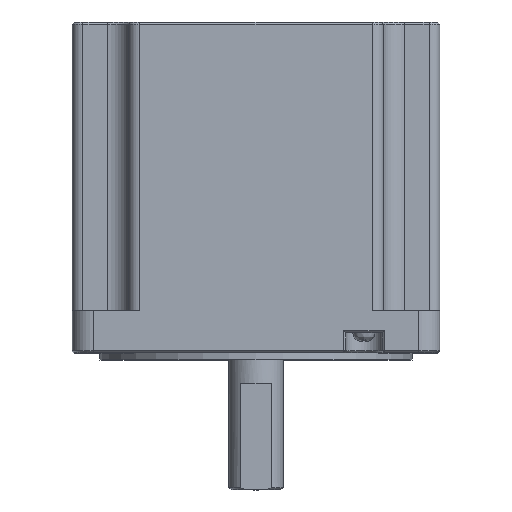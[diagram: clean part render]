
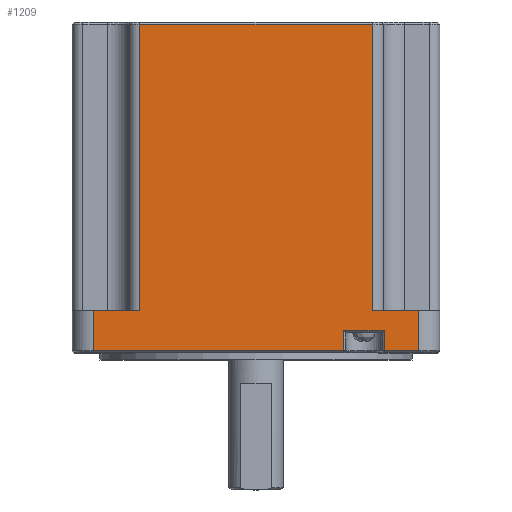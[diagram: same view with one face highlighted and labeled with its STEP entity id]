
A CAD part, top view. The second image highlights one B-rep face of the part: STEP entity #1209.
In plain terms, the highlighted planar face has unit normal (0, 0, 1).
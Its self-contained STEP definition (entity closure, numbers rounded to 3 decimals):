
#123=PLANE('',#4227);
#298=FACE_OUTER_BOUND('',#1787,.T.);
#561=LINE('',#6440,#914);
#562=LINE('',#6443,#915);
#563=LINE('',#6445,#916);
#564=LINE('',#6447,#917);
#565=LINE('',#6449,#918);
#566=LINE('',#6451,#919);
#567=LINE('',#6453,#920);
#568=LINE('',#6455,#921);
#569=LINE('',#6457,#922);
#570=LINE('',#6459,#923);
#571=LINE('',#6461,#924);
#572=LINE('',#6463,#925);
#914=VECTOR('',#4751,1.);
#915=VECTOR('',#4752,1.);
#916=VECTOR('',#4753,1.);
#917=VECTOR('',#4754,1.);
#918=VECTOR('',#4755,1.);
#919=VECTOR('',#4756,1.);
#920=VECTOR('',#4757,1.);
#921=VECTOR('',#4758,1.);
#922=VECTOR('',#4759,1.);
#923=VECTOR('',#4760,1.);
#924=VECTOR('',#4761,1.);
#925=VECTOR('',#4762,1.);
#1209=ADVANCED_FACE('',(#298),#123,.F.);
#1787=EDGE_LOOP('',(#2205,#2206,#2207,#2208,#2209,#2210,#2211,#2212,#2213,
#2214,#2215,#2216));
#2205=ORIENTED_EDGE('',*,*,#3681,.F.);
#2206=ORIENTED_EDGE('',*,*,#3682,.T.);
#2207=ORIENTED_EDGE('',*,*,#3683,.T.);
#2208=ORIENTED_EDGE('',*,*,#3684,.T.);
#2209=ORIENTED_EDGE('',*,*,#3685,.T.);
#2210=ORIENTED_EDGE('',*,*,#3686,.T.);
#2211=ORIENTED_EDGE('',*,*,#3687,.T.);
#2212=ORIENTED_EDGE('',*,*,#3688,.T.);
#2213=ORIENTED_EDGE('',*,*,#3689,.T.);
#2214=ORIENTED_EDGE('',*,*,#3690,.T.);
#2215=ORIENTED_EDGE('',*,*,#3691,.T.);
#2216=ORIENTED_EDGE('',*,*,#3692,.T.);
#3312=VERTEX_POINT('',#6441);
#3313=VERTEX_POINT('',#6442);
#3314=VERTEX_POINT('',#6444);
#3315=VERTEX_POINT('',#6446);
#3316=VERTEX_POINT('',#6448);
#3317=VERTEX_POINT('',#6450);
#3318=VERTEX_POINT('',#6452);
#3319=VERTEX_POINT('',#6454);
#3320=VERTEX_POINT('',#6456);
#3321=VERTEX_POINT('',#6458);
#3322=VERTEX_POINT('',#6460);
#3323=VERTEX_POINT('',#6462);
#3681=EDGE_CURVE('',#3312,#3313,#561,.T.);
#3682=EDGE_CURVE('',#3312,#3314,#562,.T.);
#3683=EDGE_CURVE('',#3314,#3315,#563,.T.);
#3684=EDGE_CURVE('',#3315,#3316,#564,.T.);
#3685=EDGE_CURVE('',#3316,#3317,#565,.T.);
#3686=EDGE_CURVE('',#3317,#3318,#566,.T.);
#3687=EDGE_CURVE('',#3318,#3319,#567,.T.);
#3688=EDGE_CURVE('',#3319,#3320,#568,.T.);
#3689=EDGE_CURVE('',#3320,#3321,#569,.T.);
#3690=EDGE_CURVE('',#3321,#3322,#570,.T.);
#3691=EDGE_CURVE('',#3322,#3323,#571,.T.);
#3692=EDGE_CURVE('',#3323,#3313,#572,.T.);
#4227=AXIS2_PLACEMENT_3D('',#6464,#4763,#4764);
#4751=DIRECTION('',(0.,-1.,0.));
#4752=DIRECTION('',(-1.,0.,0.));
#4753=DIRECTION('',(0.,-1.,0.));
#4754=DIRECTION('',(-1.,0.,0.));
#4755=DIRECTION('',(0.,-1.,0.));
#4756=DIRECTION('',(1.,0.,0.));
#4757=DIRECTION('',(0.,1.,0.));
#4758=DIRECTION('',(1.,0.,0.));
#4759=DIRECTION('',(0.,-1.,0.));
#4760=DIRECTION('',(1.,0.,0.));
#4761=DIRECTION('',(0.,1.,0.));
#4762=DIRECTION('',(-1.,0.,0.));
#4763=DIRECTION('',(0.,0.,-1.));
#4764=DIRECTION('',(-1.,0.,0.));
#6440=CARTESIAN_POINT('',(27.25,77.5,43.));
#6441=CARTESIAN_POINT('',(27.25,77.,43.));
#6442=CARTESIAN_POINT('',(27.25,10.,43.));
#6443=CARTESIAN_POINT('',(43.,77.,43.));
#6444=CARTESIAN_POINT('',(-27.25,77.,43.));
#6445=CARTESIAN_POINT('',(-27.25,77.5,43.));
#6446=CARTESIAN_POINT('',(-27.25,10.,43.));
#6447=CARTESIAN_POINT('',(43.,10.,43.));
#6448=CARTESIAN_POINT('',(-38.,10.,43.));
#6449=CARTESIAN_POINT('',(-38.,0.1,43.));
#6450=CARTESIAN_POINT('',(-38.,0.6,43.));
#6451=CARTESIAN_POINT('',(21.,0.6,43.));
#6452=CARTESIAN_POINT('',(20.5,0.6,43.));
#6453=CARTESIAN_POINT('',(20.5,4.8,43.));
#6454=CARTESIAN_POINT('',(20.5,5.3,43.));
#6455=CARTESIAN_POINT('',(29.5,5.3,43.));
#6456=CARTESIAN_POINT('',(30.,5.3,43.));
#6457=CARTESIAN_POINT('',(30.,0.1,43.));
#6458=CARTESIAN_POINT('',(30.,0.6,43.));
#6459=CARTESIAN_POINT('',(38.,0.6,43.));
#6460=CARTESIAN_POINT('',(38.,0.6,43.));
#6461=CARTESIAN_POINT('',(38.,0.1,43.));
#6462=CARTESIAN_POINT('',(38.,10.,43.));
#6463=CARTESIAN_POINT('',(43.,10.,43.));
#6464=CARTESIAN_POINT('',(43.,0.1,43.));
